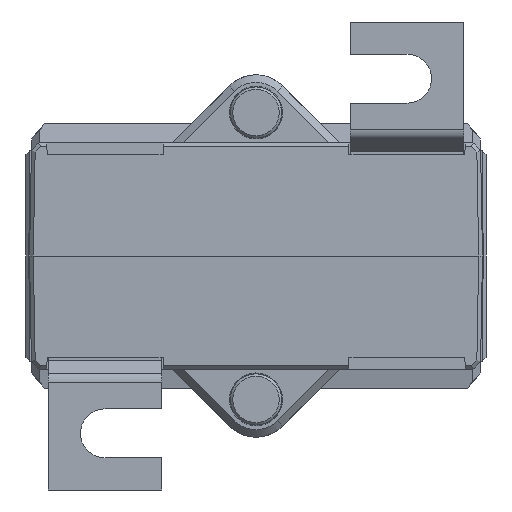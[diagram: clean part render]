
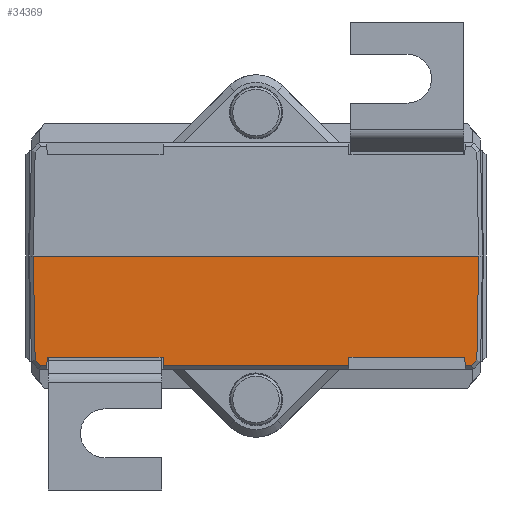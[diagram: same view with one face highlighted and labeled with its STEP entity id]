
A CAD part, front view. The second image highlights one B-rep face of the part: STEP entity #34369.
In plain terms, the highlighted planar face has unit normal (0, -1, -0.018).
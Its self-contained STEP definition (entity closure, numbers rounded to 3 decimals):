
#2437=FACE_OUTER_BOUND('',#4332,.T.);
#4332=EDGE_LOOP('',(#23461,#23462,#23463,#23464,#23465,#23466,#23467,#23468,
#23469,#23470,#23471,#23472,#23473,#23474));
#6856=LINE('',#55107,#10459);
#6857=LINE('',#55109,#10460);
#6858=LINE('',#55111,#10461);
#6859=LINE('',#55113,#10462);
#6860=LINE('',#55115,#10463);
#6861=LINE('',#55117,#10464);
#6862=LINE('',#55119,#10465);
#6863=LINE('',#55121,#10466);
#6864=LINE('',#55123,#10467);
#6865=LINE('',#55125,#10468);
#6866=LINE('',#55127,#10469);
#6867=LINE('',#55129,#10470);
#6868=LINE('',#55131,#10471);
#6869=LINE('',#55132,#10472);
#10459=VECTOR('',#39926,1000.);
#10460=VECTOR('',#39927,1000.);
#10461=VECTOR('',#39928,1000.);
#10462=VECTOR('',#39929,1000.);
#10463=VECTOR('',#39930,1000.);
#10464=VECTOR('',#39931,1000.);
#10465=VECTOR('',#39932,1000.);
#10466=VECTOR('',#39933,1000.);
#10467=VECTOR('',#39934,1000.);
#10468=VECTOR('',#39935,1000.);
#10469=VECTOR('',#39936,1000.);
#10470=VECTOR('',#39937,1000.);
#10471=VECTOR('',#39938,1000.);
#10472=VECTOR('',#39939,1000.);
#14204=VERTEX_POINT('',#55105);
#14205=VERTEX_POINT('',#55106);
#14206=VERTEX_POINT('',#55108);
#14207=VERTEX_POINT('',#55110);
#14208=VERTEX_POINT('',#55112);
#14209=VERTEX_POINT('',#55114);
#14210=VERTEX_POINT('',#55116);
#14211=VERTEX_POINT('',#55118);
#14212=VERTEX_POINT('',#55120);
#14213=VERTEX_POINT('',#55122);
#14214=VERTEX_POINT('',#55124);
#14215=VERTEX_POINT('',#55126);
#14216=VERTEX_POINT('',#55128);
#14217=VERTEX_POINT('',#55130);
#17717=EDGE_CURVE('',#14204,#14205,#6856,.T.);
#17718=EDGE_CURVE('',#14205,#14206,#6857,.T.);
#17719=EDGE_CURVE('',#14206,#14207,#6858,.T.);
#17720=EDGE_CURVE('',#14208,#14207,#6859,.T.);
#17721=EDGE_CURVE('',#14208,#14209,#6860,.T.);
#17722=EDGE_CURVE('',#14210,#14209,#6861,.T.);
#17723=EDGE_CURVE('',#14210,#14211,#6862,.T.);
#17724=EDGE_CURVE('',#14212,#14211,#6863,.T.);
#17725=EDGE_CURVE('',#14213,#14212,#6864,.T.);
#17726=EDGE_CURVE('',#14214,#14213,#6865,.T.);
#17727=EDGE_CURVE('',#14214,#14215,#6866,.T.);
#17728=EDGE_CURVE('',#14215,#14216,#6867,.T.);
#17729=EDGE_CURVE('',#14216,#14217,#6868,.T.);
#17730=EDGE_CURVE('',#14204,#14217,#6869,.T.);
#23461=ORIENTED_EDGE('',*,*,#17717,.T.);
#23462=ORIENTED_EDGE('',*,*,#17718,.T.);
#23463=ORIENTED_EDGE('',*,*,#17719,.T.);
#23464=ORIENTED_EDGE('',*,*,#17720,.F.);
#23465=ORIENTED_EDGE('',*,*,#17721,.T.);
#23466=ORIENTED_EDGE('',*,*,#17722,.F.);
#23467=ORIENTED_EDGE('',*,*,#17723,.T.);
#23468=ORIENTED_EDGE('',*,*,#17724,.F.);
#23469=ORIENTED_EDGE('',*,*,#17725,.F.);
#23470=ORIENTED_EDGE('',*,*,#17726,.F.);
#23471=ORIENTED_EDGE('',*,*,#17727,.T.);
#23472=ORIENTED_EDGE('',*,*,#17728,.T.);
#23473=ORIENTED_EDGE('',*,*,#17729,.T.);
#23474=ORIENTED_EDGE('',*,*,#17730,.F.);
#31179=PLANE('',#36461);
#34369=ADVANCED_FACE('',(#2437),#31179,.T.);
#36461=AXIS2_PLACEMENT_3D('',#55104,#39924,#39925);
#39924=DIRECTION('center_axis',(0.,-1.,
-0.017));
#39925=DIRECTION('ref_axis',(0.,-0.017,
1.));
#39926=DIRECTION('',(0.017,0.017,-1.));
#39927=DIRECTION('',(0.719,0.012,-0.695));
#39928=DIRECTION('',(1.,0.,0.));
#39929=DIRECTION('',(-0.009,0.017,-1.));
#39930=DIRECTION('',(1.,0.,0.));
#39931=DIRECTION('',(-0.009,-0.017,1.));
#39932=DIRECTION('',(1.,0.,0.));
#39933=DIRECTION('',(-0.009,0.017,-1.));
#39934=DIRECTION('',(-1.,0.,0.));
#39935=DIRECTION('',(-0.009,-0.017,1.));
#39936=DIRECTION('',(1.,0.,0.));
#39937=DIRECTION('',(0.719,-0.012,0.695));
#39938=DIRECTION('',(0.017,-0.017,1.));
#39939=DIRECTION('',(1.,0.,0.));
#55104=CARTESIAN_POINT('Origin',(30.,-25.75,0.));
#55105=CARTESIAN_POINT('',(-29.5,-25.75,0.));
#55106=CARTESIAN_POINT('',(-29.259,-25.51,-13.775));
#55107=CARTESIAN_POINT('',(-29.482,-25.732,-1.038));
#55108=CARTESIAN_POINT('',(-28.509,-25.497,-14.5));
#55109=CARTESIAN_POINT('',(-28.368,-25.495,-14.636));
#55110=CARTESIAN_POINT('',(-27.693,-25.497,-14.5));
#55111=CARTESIAN_POINT('',(28.72,-25.497,-14.5));
#55112=CARTESIAN_POINT('',(-27.683,-25.516,-13.4));
#55113=CARTESIAN_POINT('',(-27.562,-25.759,0.502));
#55114=CARTESIAN_POINT('',(-12.317,-25.516,-13.4));
#55115=CARTESIAN_POINT('',(30.,-25.516,-13.4));
#55116=CARTESIAN_POINT('',(-12.307,-25.497,-14.5));
#55117=CARTESIAN_POINT('',(-12.43,-25.744,-0.37));
#55118=CARTESIAN_POINT('',(12.307,-25.497,-14.5));
#55119=CARTESIAN_POINT('',(28.72,-25.497,-14.5));
#55120=CARTESIAN_POINT('',(12.317,-25.516,-13.4));
#55121=CARTESIAN_POINT('',(12.435,-25.753,0.153));
#55122=CARTESIAN_POINT('',(27.683,-25.516,-13.4));
#55123=CARTESIAN_POINT('',(30.,-25.516,-13.4));
#55124=CARTESIAN_POINT('',(27.693,-25.497,-14.5));
#55125=CARTESIAN_POINT('',(27.566,-25.75,-0.021));
#55126=CARTESIAN_POINT('',(28.509,-25.497,-14.5));
#55127=CARTESIAN_POINT('',(28.72,-25.497,-14.5));
#55128=CARTESIAN_POINT('',(29.259,-25.51,-13.776));
#55129=CARTESIAN_POINT('',(29.404,-25.512,-13.636));
#55130=CARTESIAN_POINT('',(29.5,-25.75,0.));
#55131=CARTESIAN_POINT('',(29.5,-25.75,0.009));
#55132=CARTESIAN_POINT('',(-30.,-25.75,0.));
